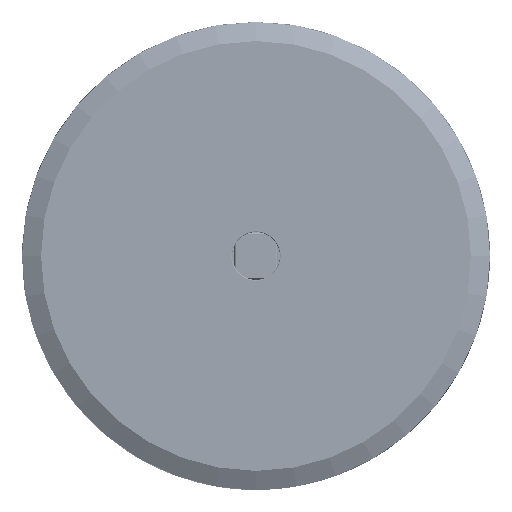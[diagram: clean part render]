
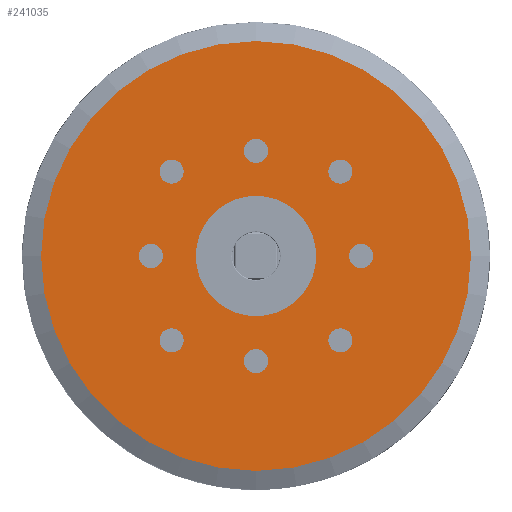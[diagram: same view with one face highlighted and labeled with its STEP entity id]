
A CAD part, left-side view. The second image highlights one B-rep face of the part: STEP entity #241035.
In plain terms, the highlighted planar face has unit normal (-1, 0, 0).
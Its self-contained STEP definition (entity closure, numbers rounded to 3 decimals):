
#70747=FACE_BOUND('',#85334,.T.);
#70748=FACE_BOUND('',#85335,.T.);
#70749=FACE_BOUND('',#85336,.T.);
#70750=FACE_BOUND('',#85337,.T.);
#70751=FACE_BOUND('',#85338,.T.);
#70752=FACE_BOUND('',#85339,.T.);
#70753=FACE_BOUND('',#85340,.T.);
#70754=FACE_BOUND('',#85341,.T.);
#70755=FACE_BOUND('',#85342,.T.);
#71909=FACE_OUTER_BOUND('',#85333,.T.);
#85333=EDGE_LOOP('',(#160805));
#85334=EDGE_LOOP('',(#160806));
#85335=EDGE_LOOP('',(#160807));
#85336=EDGE_LOOP('',(#160808));
#85337=EDGE_LOOP('',(#160809));
#85338=EDGE_LOOP('',(#160810));
#85339=EDGE_LOOP('',(#160811));
#85340=EDGE_LOOP('',(#160812));
#85341=EDGE_LOOP('',(#160813));
#85342=EDGE_LOOP('',(#160814));
#99917=CIRCLE('',#255320,22.5);
#99918=CIRCLE('',#255321,1.265);
#99919=CIRCLE('',#255322,1.265);
#99920=CIRCLE('',#255323,1.265);
#99921=CIRCLE('',#255324,1.265);
#99922=CIRCLE('',#255325,1.265);
#99923=CIRCLE('',#255326,1.265);
#99924=CIRCLE('',#255327,1.265);
#99925=CIRCLE('',#255328,1.265);
#99926=CIRCLE('',#255329,6.3);
#101566=VERTEX_POINT('',#323187);
#101567=VERTEX_POINT('',#323189);
#101568=VERTEX_POINT('',#323191);
#101569=VERTEX_POINT('',#323193);
#101570=VERTEX_POINT('',#323195);
#101571=VERTEX_POINT('',#323197);
#101572=VERTEX_POINT('',#323199);
#101573=VERTEX_POINT('',#323201);
#101574=VERTEX_POINT('',#323203);
#101575=VERTEX_POINT('',#323205);
#125099=EDGE_CURVE('',#101566,#101566,#99917,.T.);
#125100=EDGE_CURVE('',#101567,#101567,#99918,.T.);
#125101=EDGE_CURVE('',#101568,#101568,#99919,.T.);
#125102=EDGE_CURVE('',#101569,#101569,#99920,.T.);
#125103=EDGE_CURVE('',#101570,#101570,#99921,.T.);
#125104=EDGE_CURVE('',#101571,#101571,#99922,.T.);
#125105=EDGE_CURVE('',#101572,#101572,#99923,.T.);
#125106=EDGE_CURVE('',#101573,#101573,#99924,.T.);
#125107=EDGE_CURVE('',#101574,#101574,#99925,.T.);
#125108=EDGE_CURVE('',#101575,#101575,#99926,.T.);
#160805=ORIENTED_EDGE('',*,*,#125099,.T.);
#160806=ORIENTED_EDGE('',*,*,#125100,.T.);
#160807=ORIENTED_EDGE('',*,*,#125101,.T.);
#160808=ORIENTED_EDGE('',*,*,#125102,.T.);
#160809=ORIENTED_EDGE('',*,*,#125103,.T.);
#160810=ORIENTED_EDGE('',*,*,#125104,.T.);
#160811=ORIENTED_EDGE('',*,*,#125105,.T.);
#160812=ORIENTED_EDGE('',*,*,#125106,.T.);
#160813=ORIENTED_EDGE('',*,*,#125107,.T.);
#160814=ORIENTED_EDGE('',*,*,#125108,.F.);
#232200=PLANE('',#255319);
#241035=ADVANCED_FACE('',(#71909,#70747,#70748,#70749,#70750,#70751,#70752,
#70753,#70754,#70755),#232200,.F.);
#255319=AXIS2_PLACEMENT_3D('',#323186,#269047,#269048);
#255320=AXIS2_PLACEMENT_3D('',#323188,#269049,#269050);
#255321=AXIS2_PLACEMENT_3D('',#323190,#269051,#269052);
#255322=AXIS2_PLACEMENT_3D('',#323192,#269053,#269054);
#255323=AXIS2_PLACEMENT_3D('',#323194,#269055,#269056);
#255324=AXIS2_PLACEMENT_3D('',#323196,#269057,#269058);
#255325=AXIS2_PLACEMENT_3D('',#323198,#269059,#269060);
#255326=AXIS2_PLACEMENT_3D('',#323200,#269061,#269062);
#255327=AXIS2_PLACEMENT_3D('',#323202,#269063,#269064);
#255328=AXIS2_PLACEMENT_3D('',#323204,#269065,#269066);
#255329=AXIS2_PLACEMENT_3D('',#323206,#269067,#269068);
#269047=DIRECTION('center_axis',(1.,0.,0.));
#269048=DIRECTION('ref_axis',(0.,0.,-1.));
#269049=DIRECTION('center_axis',(-1.,0.,0.));
#269050=DIRECTION('ref_axis',(0.,0.,1.));
#269051=DIRECTION('center_axis',(1.,0.,0.));
#269052=DIRECTION('ref_axis',(0.,-1.,0.));
#269053=DIRECTION('center_axis',(1.,0.,0.));
#269054=DIRECTION('ref_axis',(0.,-1.,0.));
#269055=DIRECTION('center_axis',(1.,0.,0.));
#269056=DIRECTION('ref_axis',(0.,-1.,0.));
#269057=DIRECTION('center_axis',(1.,0.,0.));
#269058=DIRECTION('ref_axis',(0.,-1.,0.));
#269059=DIRECTION('center_axis',(1.,0.,0.));
#269060=DIRECTION('ref_axis',(0.,-1.,0.));
#269061=DIRECTION('center_axis',(1.,0.,0.));
#269062=DIRECTION('ref_axis',(0.,-1.,0.));
#269063=DIRECTION('center_axis',(1.,0.,0.));
#269064=DIRECTION('ref_axis',(0.,-1.,0.));
#269065=DIRECTION('center_axis',(1.,0.,0.));
#269066=DIRECTION('ref_axis',(0.,-1.,0.));
#269067=DIRECTION('center_axis',(-1.,0.,0.));
#269068=DIRECTION('ref_axis',(0.,0.,1.));
#323186=CARTESIAN_POINT('Origin',(0.,6.3,0.));
#323187=CARTESIAN_POINT('',(0.,0.,
22.5));
#323188=CARTESIAN_POINT('Origin',(0.,0.,0.));
#323189=CARTESIAN_POINT('',(0.,10.103,-8.839));
#323190=CARTESIAN_POINT('Origin',(0.,8.839,-8.839));
#323191=CARTESIAN_POINT('',(0.,-7.574,-8.839));
#323192=CARTESIAN_POINT('Origin',(0.,-8.839,-8.839));
#323193=CARTESIAN_POINT('',(0.,-7.574,8.839));
#323194=CARTESIAN_POINT('Origin',(0.,-8.839,8.839));
#323195=CARTESIAN_POINT('',(0.,10.103,8.839));
#323196=CARTESIAN_POINT('Origin',(0.,8.839,8.839));
#323197=CARTESIAN_POINT('',(0.,1.265,11.));
#323198=CARTESIAN_POINT('Origin',(0.,0.,11.));
#323199=CARTESIAN_POINT('',(0.,-9.736,0.));
#323200=CARTESIAN_POINT('Origin',(0.,-11.,0.));
#323201=CARTESIAN_POINT('',(0.,1.265,-11.));
#323202=CARTESIAN_POINT('Origin',(0.,0.,-11.));
#323203=CARTESIAN_POINT('',(0.,12.265,0.));
#323204=CARTESIAN_POINT('Origin',(0.,11.,0.));
#323205=CARTESIAN_POINT('',(0.,0.,-6.3));
#323206=CARTESIAN_POINT('Origin',(0.,0.,0.));
